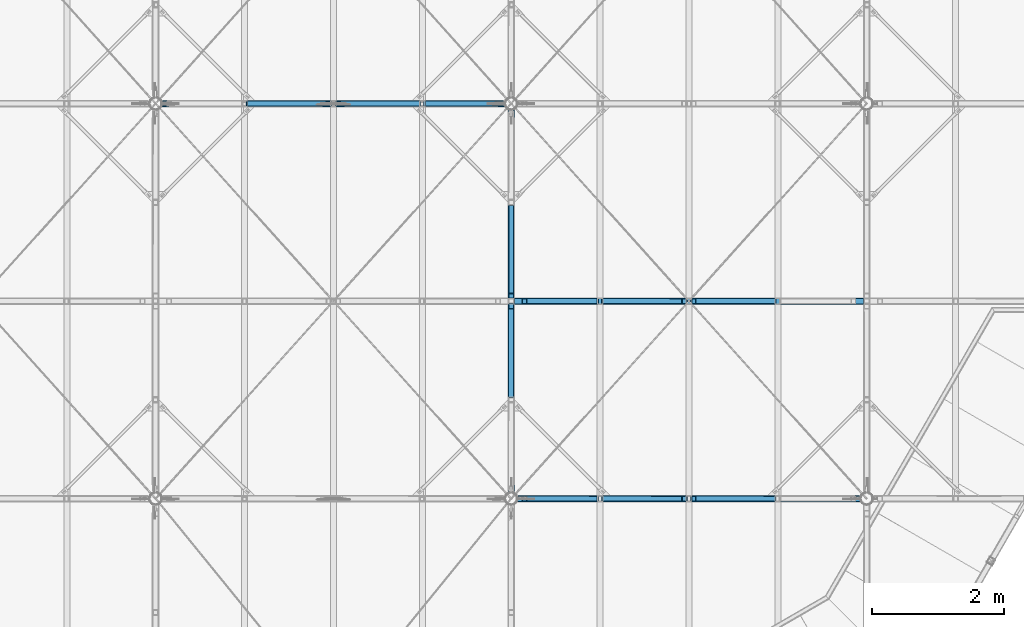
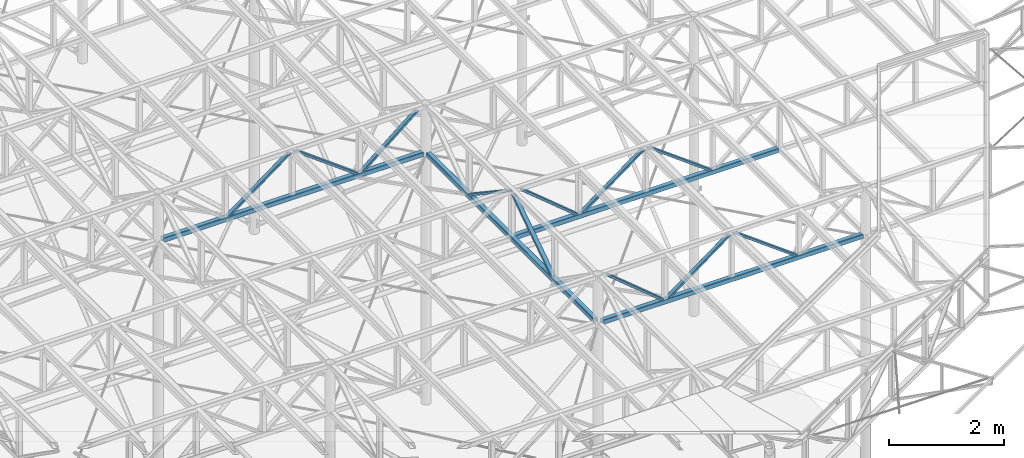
# One storey, part 48 of 132: 15 discrete accessories, 4 elements without a shape of their own.
"""IFC2X3 building model written with IfcOpenShell, lengths in millimetres."""

from ifc_helpers import new_model, si_unit, frame, origin_with_axes, origin_2d_with_axis, place, context, subcontext, project, spatial, hollow_rectangle, circle, extrude, boolean, halfspace, material, type_object, element, aggregate, save


model = new_model("IFC2X3")

# Units and contexts
model_context = context("Model", 3, precision=1e-05, world=origin_with_axes())
body_context = subcontext(model_context, "Body", "Model", "MODEL_VIEW")
ifc_project = project(units=[si_unit("LENGTHUNIT", "METRE", prefix="MILLI"), si_unit("AREAUNIT", "SQUARE_METRE"), si_unit("VOLUMEUNIT", "CUBIC_METRE"), si_unit("MASSUNIT", "GRAM", prefix="KILO"), si_unit("TIMEUNIT", "SECOND"), si_unit("PLANEANGLEUNIT", "RADIAN"), si_unit("SOLIDANGLEUNIT", "STERADIAN"), si_unit("THERMODYNAMICTEMPERATUREUNIT", "DEGREE_CELSIUS"), si_unit("LUMINOUSINTENSITYUNIT", "LUMEN")], contexts=[model_context])

# Site, building, storey
site_placement = place(None, origin_with_axes())
site = spatial("IfcSite", under=ifc_project, at=site_placement, Name="Budowa", CompositionType="ELEMENT")
building_placement = place(site_placement, origin_with_axes())
building = spatial("IfcBuilding", under=site, at=building_placement, Name="Undefined", CompositionType="ELEMENT")
storey_placement = place(building_placement, origin_with_axes())
storey = spatial("IfcBuildingStorey", under=building, at=storey_placement, Name="Undefined", CompositionType="ELEMENT", Elevation=0.0)

# Assembly, discrete accessories
assembly_1_placement = place(storey_placement, origin_with_axes())
assembly_1 = element("IfcElementAssembly", 1, at=assembly_1_placement, inside=storey, Name="Steel Assembly", AssemblyPlace="NOTDEFINED", PredefinedType="RIGID_FRAME")
ifc_material = material(Name="STEEL/S235")
discrete_accessory_type = type_object("IfcDiscreteAccessoryType", Name="BEAM")
discrete_accessory_1_placement = place(assembly_1_placement, frame((14965.9999999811, 9000.00000004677, 13830.0), z_axis=(0.0, -1.0, 0.0), x_axis=(0.770567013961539, 0.0, -0.637358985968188)))
solid_1 = boolean("DIFFERENCE", boolean("DIFFERENCE", extrude(hollow_rectangle(XDim=90.0, YDim=90.0, WallThickness=6.0, InnerFilletRadius=6.0, OuterFilletRadius=12.0, at=origin_2d_with_axis()), frame((1537.1065565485, 38.528350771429, -6.22094376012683e-10), z_axis=(-0.637358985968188, 0.770567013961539, 0.0), x_axis=(-0.770567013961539, -0.637358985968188, 0.0)), (0.0, 0.0, 1.0), 900.0), halfspace(frame((1537.1065565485, 38.5283507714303, 999.999999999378), z_axis=(-0.637358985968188, 0.770567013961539, 0.0), x_axis=(-0.770567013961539, -0.637358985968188, 0.0)), True)), halfspace(frame((963.483469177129, 732.038663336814, 999.999999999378), z_axis=(0.637358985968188, -0.770567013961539, 0.0), x_axis=(0.770567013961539, 0.637358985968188, 0.0)), True))
discrete_accessory_1 = element("IfcDiscreteAccessory", 2, at=discrete_accessory_1_placement, type_object=discrete_accessory_type, material=ifc_material, Name="BEAM", ObjectType="RHS90*50*5", context=body_context, shape_type="CSG", body=[
    boolean("DIFFERENCE", boolean("DIFFERENCE", boolean("DIFFERENCE", extrude(hollow_rectangle(XDim=50.0, YDim=90.0, WallThickness=5.0, InnerFilletRadius=7.5, OuterFilletRadius=12.5, at=origin_2d_with_axis()), frame((1533.07734352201, 2.27373675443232e-12, 0.0), z_axis=(-1.0, 0.0, 0.0), x_axis=(0.0, -1.0, 0.0)), (0.0, 0.0, 1.0), 1497.18), solid_1), halfspace(frame((1537.1065565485, 38.5283507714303, 999.999999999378), z_axis=(-0.637358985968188, 0.770567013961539, 0.0), x_axis=(-0.770567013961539, -0.637358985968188, 0.0)), True)), halfspace(frame((31.867949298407, -38.5283506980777, 1000.0), z_axis=(0.637358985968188, -0.770567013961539, 0.0), x_axis=(0.770567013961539, 0.637358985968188, 0.0)), True)),
])
discrete_accessory_2_placement = place(assembly_1_placement, frame((17524.9999999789, 9000.00000004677, 13830.0), z_axis=(0.0, -1.0, 0.0), x_axis=(-0.803557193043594, 0.0, -0.595227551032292)))
solid_2 = boolean("DIFFERENCE", boolean("DIFFERENCE", extrude(hollow_rectangle(XDim=90.0, YDim=90.0, WallThickness=6.0, InnerFilletRadius=6.0, OuterFilletRadius=12.0, at=origin_2d_with_axis()), frame((565.466173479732, 763.379333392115, -6.22094376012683e-10), z_axis=(-0.595227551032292, -0.803557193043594, 0.0), x_axis=(0.803557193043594, -0.595227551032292, 0.0)), (0.0, 0.0, 1.0), 900.0), halfspace(frame((565.46617347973, 763.379333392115, 999.999999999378), z_axis=(-0.595227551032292, -0.803557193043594, 0.0), x_axis=(0.803557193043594, -0.595227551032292, 0.0)), True)), halfspace(frame((29.7613775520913, 40.1778596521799, 1000.0), z_axis=(0.595227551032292, 0.803557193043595, 0.0), x_axis=(-0.803557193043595, 0.595227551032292, 0.0)), True))
solid_3 = boolean("DIFFERENCE", boolean("DIFFERENCE", extrude(hollow_rectangle(XDim=90.0, YDim=90.0, WallThickness=6.0, InnerFilletRadius=6.0, OuterFilletRadius=12.0, at=origin_2d_with_axis()), frame((1650.26838408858, -40.1778605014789, -6.22094376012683e-10), z_axis=(-0.595227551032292, -0.803557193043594, 0.0), x_axis=(0.803557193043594, -0.595227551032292, 0.0)), (0.0, 0.0, 1.0), 900.0), halfspace(frame((1650.2683829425, -40.1778596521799, 1000.0), z_axis=(-0.595227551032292, -0.803557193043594, 0.0), x_axis=(0.803557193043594, -0.595227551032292, 0.0)), True)), halfspace(frame((1114.56358815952, -763.379334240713, 999.999999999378), z_axis=(0.595227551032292, 0.803557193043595, 0.0), x_axis=(-0.803557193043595, 0.595227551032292, 0.0)), True))
discrete_accessory_2 = element("IfcDiscreteAccessory", 3, at=discrete_accessory_2_placement, type_object=discrete_accessory_type, material=ifc_material, Name="BEAM", ObjectType="RHS90*50*5", context=body_context, shape_type="CSG", body=[
    boolean("DIFFERENCE", boolean("DIFFERENCE", boolean("DIFFERENCE", boolean("DIFFERENCE", extrude(hollow_rectangle(XDim=50.0, YDim=90.0, WallThickness=5.0, InnerFilletRadius=7.5, OuterFilletRadius=12.5, at=origin_2d_with_axis()), frame((1632.54994793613, 0.0, 0.0), z_axis=(-1.0, 0.0, 0.0), x_axis=(0.0, -1.0, 0.0)), (0.0, 0.0, 1.0), 1585.07), solid_2), solid_3), halfspace(frame((1650.2683829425, -40.1778596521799, 1000.0), z_axis=(-0.595227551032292, -0.803557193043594, 0.0), x_axis=(0.803557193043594, -0.595227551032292, 0.0)), True)), halfspace(frame((29.7613775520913, 40.1778596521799, 1000.0), z_axis=(0.595227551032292, 0.803557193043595, 0.0), x_axis=(-0.803557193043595, 0.595227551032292, 0.0)), True)),
])
discrete_accessory_3_placement = place(assembly_1_placement, frame((17524.9999999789, 9000.00000004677, 13830.0), z_axis=(0.0, -1.0, 0.0), x_axis=(0.803557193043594, 0.0, -0.595227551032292)))
solid_4 = boolean("DIFFERENCE", boolean("DIFFERENCE", extrude(hollow_rectangle(XDim=90.0, YDim=90.0, WallThickness=6.0, InnerFilletRadius=6.0, OuterFilletRadius=12.0, at=origin_2d_with_axis()), frame((1650.26838408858, 40.1778605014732, -6.22094376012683e-10), z_axis=(-0.595227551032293, 0.803557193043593, 0.0), x_axis=(-0.803557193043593, -0.595227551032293, 0.0)), (0.0, 0.0, 1.0), 900.0), halfspace(frame((1650.2683829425, 40.1778596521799, 1000.0), z_axis=(-0.595227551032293, 0.803557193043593, 0.0), x_axis=(-0.803557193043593, -0.595227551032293, 0.0)), True)), halfspace(frame((1114.56358815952, 763.379334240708, 999.999999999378), z_axis=(0.595227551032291, -0.803557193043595, 0.0), x_axis=(0.803557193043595, 0.595227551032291, 0.0)), True))
solid_5 = boolean("DIFFERENCE", boolean("DIFFERENCE", extrude(hollow_rectangle(XDim=90.0, YDim=90.0, WallThickness=6.0, InnerFilletRadius=6.0, OuterFilletRadius=12.0, at=origin_2d_with_axis()), frame((565.46617347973, -763.379333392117, -6.22094376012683e-10), z_axis=(-0.595227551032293, 0.803557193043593, 0.0), x_axis=(-0.803557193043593, -0.595227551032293, 0.0)), (0.0, 0.0, 1.0), 900.0), halfspace(frame((565.46617347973, -763.37933339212, 999.999999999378), z_axis=(-0.595227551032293, 0.803557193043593, 0.0), x_axis=(-0.803557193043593, -0.595227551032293, 0.0)), True)), halfspace(frame((29.7613775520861, -40.1778596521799, 1000.0), z_axis=(0.595227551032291, -0.803557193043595, 0.0), x_axis=(0.803557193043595, 0.595227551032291, 0.0)), True))
discrete_accessory_3 = element("IfcDiscreteAccessory", 4, at=discrete_accessory_3_placement, type_object=discrete_accessory_type, material=ifc_material, Name="BEAM", ObjectType="RHS90*50*5", context=body_context, shape_type="CSG", body=[
    boolean("DIFFERENCE", boolean("DIFFERENCE", boolean("DIFFERENCE", boolean("DIFFERENCE", extrude(hollow_rectangle(XDim=50.0, YDim=90.0, WallThickness=5.0, InnerFilletRadius=7.5, OuterFilletRadius=12.5, at=origin_2d_with_axis()), frame((1632.54994793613, 0.0, 0.0), z_axis=(-1.0, 0.0, 0.0), x_axis=(0.0, -1.0, 0.0)), (0.0, 0.0, 1.0), 1585.07), solid_4), solid_5), halfspace(frame((1650.2683829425, 40.1778596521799, 1000.0), z_axis=(-0.595227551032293, 0.803557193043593, 0.0), x_axis=(-0.803557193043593, -0.595227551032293, 0.0)), True)), halfspace(frame((29.7613775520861, -40.1778596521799, 1000.0), z_axis=(0.595227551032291, -0.803557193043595, 0.0), x_axis=(0.803557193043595, 0.595227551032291, 0.0)), True)),
])
discrete_accessory_4_placement = place(assembly_1_placement, frame((14874.9999999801, 9000.00000004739, 12830.0), z_axis=(0.0, -1.0, 0.0), x_axis=(1.0, 0.0, 0.0)))
discrete_accessory_4 = element("IfcDiscreteAccessory", 5, at=discrete_accessory_4_placement, type_object=discrete_accessory_type, material=ifc_material, Name="BEAM", ObjectType="SHS100*8", context=body_context, shape_type="SweptSolid", body=[
    extrude(hollow_rectangle(XDim=100.0, YDim=100.0, WallThickness=8.0, InnerFilletRadius=8.0, OuterFilletRadius=16.0, at=origin_2d_with_axis()), frame((5300.0, 0.0, 0.0), z_axis=(-1.0, 0.0, 0.0), x_axis=(0.0, -1.0, 0.0)), (0.0, 0.0, 1.0), 5300.0),
])
aggregate(assembly_1, [discrete_accessory_1, discrete_accessory_2, discrete_accessory_3, discrete_accessory_4])

assembly_2_placement = place(storey_placement, origin_with_axes())
assembly_2 = element("IfcElementAssembly", 6, at=assembly_2_placement, inside=storey, Name="Steel Assembly", AssemblyPlace="NOTDEFINED", PredefinedType="RIGID_FRAME")
discrete_accessory_5_placement = place(assembly_2_placement, frame((14824.9999999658, 10499.8000000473, 12829.9999999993), z_axis=(1.0, 0.0, 0.0), x_axis=(0.0, -0.832050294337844, 0.554700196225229)))
solid_6 = boolean("DIFFERENCE", boolean("DIFFERENCE", extrude(hollow_rectangle(XDim=90.0, YDim=90.0, WallThickness=6.0, InnerFilletRadius=6.0, OuterFilletRadius=12.0, at=origin_2d_with_axis()), frame((27.5685997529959, -41.7134547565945, 2.20825313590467e-09), z_axis=(0.554700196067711, -0.832050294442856, 1.11090858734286e-10), x_axis=(0.832050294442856, 0.554700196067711, 1.66635594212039e-10)), (0.0, 0.0, 1.0), 900.0), halfspace(frame((27.5685997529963, -41.7134547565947, 1000.00000000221), z_axis=(0.554700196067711, -0.832050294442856, 1.11090858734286e-10), x_axis=(0.832050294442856, 0.554700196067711, 1.66635594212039e-10)), True)), halfspace(frame((526.798776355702, -790.558719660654, 1000.00000000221), z_axis=(-0.554700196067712, 0.832050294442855, -1.1109021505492e-10), x_axis=(-0.832050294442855, -0.554700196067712, -1.66634890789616e-10)), True))
solid_7 = boolean("DIFFERENCE", boolean("DIFFERENCE", extrude(hollow_rectangle(XDim=90.0, YDim=90.0, WallThickness=6.0, InnerFilletRadius=6.0, OuterFilletRadius=12.0, at=origin_2d_with_axis()), frame((1275.64404125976, 790.336839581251, 2.20825313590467e-09), z_axis=(0.554700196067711, -0.832050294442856, 1.11090858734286e-10), x_axis=(0.832050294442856, 0.554700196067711, 1.66635594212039e-10)), (0.0, 0.0, 1.0), 900.0), halfspace(frame((1275.64404125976, 790.33683958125, 1000.00000000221), z_axis=(0.554700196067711, -0.832050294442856, 1.11090858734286e-10), x_axis=(0.832050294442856, 0.554700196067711, 1.66635594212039e-10)), True)), halfspace(frame((1774.87421786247, 41.4915746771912, 1000.00000000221), z_axis=(-0.554700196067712, 0.832050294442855, -1.1109021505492e-10), x_axis=(-0.832050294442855, -0.554700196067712, -1.66634890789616e-10)), True))
discrete_accessory_5 = element("IfcDiscreteAccessory", 7, at=discrete_accessory_5_placement, type_object=discrete_accessory_type, material=ifc_material, Name="BEAM", ObjectType="RHS90*50*5", context=body_context, shape_type="CSG", body=[
    boolean("DIFFERENCE", boolean("DIFFERENCE", boolean("DIFFERENCE", boolean("DIFFERENCE", extrude(hollow_rectangle(XDim=50.0, YDim=90.0, WallThickness=5.0, InnerFilletRadius=7.5, OuterFilletRadius=12.5, at=origin_2d_with_axis()), frame((1763.05910368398, 0.0, 0.0), z_axis=(-1.0, 0.0, 0.0), x_axis=(0.0, -1.0, 0.0)), (0.0, 0.0, 1.0), 1723.34), solid_6), solid_7), halfspace(frame((1775.04062824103, 41.6025147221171, 999.999999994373), z_axis=(-0.554700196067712, 0.832050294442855, -1.1109021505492e-10), x_axis=(-0.832050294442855, -0.554700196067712, -1.66634890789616e-10)), True)), halfspace(frame((27.7350096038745, -41.6025147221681, 1000.00000000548), z_axis=(0.554700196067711, -0.832050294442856, 1.11090858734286e-10), x_axis=(0.832050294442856, 0.554700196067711, 1.66635594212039e-10)), True)),
])
discrete_accessory_6_placement = place(assembly_2_placement, frame((14824.9999999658, 7500.00000004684, 12829.9999999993), z_axis=(1.0, 0.0, 0.0), x_axis=(0.0, 0.832050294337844, 0.554700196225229)))
solid_8 = boolean("DIFFERENCE", boolean("DIFFERENCE", extrude(hollow_rectangle(XDim=90.0, YDim=90.0, WallThickness=6.0, InnerFilletRadius=6.0, OuterFilletRadius=12.0, at=origin_2d_with_axis()), frame((1275.81045145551, -790.447779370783, -2.51850795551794e-07), z_axis=(0.554700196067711, 0.832050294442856, -1.11090858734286e-10), x_axis=(-0.832050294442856, 0.554700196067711, 1.66634595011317e-10)), (0.0, 0.0, 1.0), 900.0), halfspace(frame((1275.81045165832, -790.447779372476, 999.999999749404), z_axis=(0.554700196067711, 0.832050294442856, -1.11090858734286e-10), x_axis=(-0.832050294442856, 0.554700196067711, 1.66634595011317e-10)), True)), halfspace(frame((1775.04062811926, -41.6025143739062, 999.999999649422), z_axis=(-0.554700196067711, -0.832050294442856, 1.11091980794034e-10), x_axis=(0.832050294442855, -0.554700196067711, -1.66634436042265e-10)), True))
solid_9 = boolean("DIFFERENCE", boolean("DIFFERENCE", extrude(hollow_rectangle(XDim=90.0, YDim=90.0, WallThickness=6.0, InnerFilletRadius=6.0, OuterFilletRadius=12.0, at=origin_2d_with_axis()), frame((27.7350097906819, 41.6025147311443, -4.89933715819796e-09), z_axis=(0.554700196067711, 0.832050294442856, -1.11090858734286e-10), x_axis=(-0.832050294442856, 0.554700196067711, 1.66634595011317e-10)), (0.0, 0.0, 1.0), 900.0), halfspace(frame((27.7350099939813, 41.6025147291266, 999.999999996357), z_axis=(0.554700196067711, 0.832050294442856, -1.11090858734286e-10), x_axis=(-0.832050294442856, 0.554700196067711, 1.66634595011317e-10)), True)), halfspace(frame((526.965186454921, 790.447779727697, 999.999999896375), z_axis=(-0.554700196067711, -0.832050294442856, 1.11091980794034e-10), x_axis=(0.832050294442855, -0.554700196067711, -1.66634436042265e-10)), True))
discrete_accessory_6 = element("IfcDiscreteAccessory", 8, at=discrete_accessory_6_placement, type_object=discrete_accessory_type, material=ifc_material, Name="BEAM", ObjectType="RHS90*50*5", context=body_context, shape_type="CSG", body=[
    boolean("DIFFERENCE", boolean("DIFFERENCE", boolean("DIFFERENCE", boolean("DIFFERENCE", extrude(hollow_rectangle(XDim=50.0, YDim=90.0, WallThickness=5.0, InnerFilletRadius=7.5, OuterFilletRadius=12.5, at=origin_2d_with_axis()), frame((1763.05910368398, 0.0, 0.0), z_axis=(-1.0, 0.0, 0.0), x_axis=(0.0, -1.0, 0.0)), (0.0, 0.0, 1.0), 1723.34), solid_8), solid_9), halfspace(frame((1775.04062811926, -41.6025143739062, 999.999999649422), z_axis=(-0.554700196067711, -0.832050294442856, 1.11091980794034e-10), x_axis=(0.832050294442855, -0.554700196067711, -1.66634436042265e-10)), True)), halfspace(frame((27.7350099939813, 41.6025147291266, 999.999999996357), z_axis=(0.554700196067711, 0.832050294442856, -1.11090858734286e-10), x_axis=(-0.832050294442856, 0.554700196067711, 1.66634595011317e-10)), True)),
])
discrete_accessory_7_placement = place(assembly_2_placement, frame((14824.999999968, 6088.90000004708, 12830.0), z_axis=(1.0, 0.0, 0.0), x_axis=(0.0, 1.0, 0.0)))
discrete_accessory_7 = element("IfcDiscreteAccessory", 9, at=discrete_accessory_7_placement, type_object=discrete_accessory_type, material=ifc_material, Name="BEAM", ObjectType="SHS100*8", context=body_context, shape_type="CSG", body=[
    boolean("DIFFERENCE", boolean("DIFFERENCE", boolean("DIFFERENCE", boolean("DIFFERENCE", extrude(hollow_rectangle(XDim=100.0, YDim=100.0, WallThickness=8.0, InnerFilletRadius=8.0, OuterFilletRadius=16.0, at=origin_2d_with_axis()), frame((5911.09999999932, 0.0, 0.0), z_axis=(-1.0, 0.0, 0.0), x_axis=(0.0, -1.0, 0.0)), (0.0, 0.0, 1.0), 6000.0), extrude(circle(Radius=89.9, at=origin_2d_with_axis()), frame((5911.09999999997, 1950.0, 0.0), z_axis=(0.0, -1.0, 0.0), x_axis=(-1.0, 0.0, 0.0)), (0.0, 0.0, 1.0), 2100.0)), extrude(circle(Radius=89.9, at=origin_2d_with_axis()), frame((-88.9000000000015, 1950.0, -5.45696821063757e-12), z_axis=(0.0, -1.0, 0.0), x_axis=(-1.0, 0.0, 0.0)), (0.0, 0.0, 1.0), 2100.0)), halfspace(frame((5911.09999999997, -5339.0, 0.0), z_axis=(-1.0, 0.0, 0.0), x_axis=(0.0, 0.0, -1.0)), True)), halfspace(frame((-88.9000000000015, -5339.0, -5.45696821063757e-12), z_axis=(-1.0, 0.0, 0.0), x_axis=(0.0, 0.0, -1.0)), False)),
])
aggregate(assembly_2, [discrete_accessory_5, discrete_accessory_6, discrete_accessory_7])

assembly_3_placement = place(storey_placement, origin_with_axes())
assembly_3 = element("IfcElementAssembly", 10, at=assembly_3_placement, inside=storey, Name="Steel Assembly", AssemblyPlace="NOTDEFINED", PredefinedType="RIGID_FRAME")
discrete_accessory_8_placement = place(assembly_3_placement, frame((14965.9999999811, 6000.00000004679, 13830.0), z_axis=(0.0, -1.0, 0.0), x_axis=(0.770567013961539, 0.0, -0.637358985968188)))
solid_10 = boolean("DIFFERENCE", boolean("DIFFERENCE", extrude(hollow_rectangle(XDim=90.0, YDim=90.0, WallThickness=6.0, InnerFilletRadius=6.0, OuterFilletRadius=12.0, at=origin_2d_with_axis()), frame((1537.1065565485, 38.528350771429, -6.22094376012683e-10), z_axis=(-0.637358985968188, 0.770567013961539, 0.0), x_axis=(-0.770567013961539, -0.637358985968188, 0.0)), (0.0, 0.0, 1.0), 900.0), halfspace(frame((1537.1065565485, 38.5283507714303, 999.999999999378), z_axis=(-0.637358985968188, 0.770567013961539, 0.0), x_axis=(-0.770567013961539, -0.637358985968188, 0.0)), True)), halfspace(frame((963.483469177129, 732.038663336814, 999.999999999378), z_axis=(0.637358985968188, -0.770567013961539, 0.0), x_axis=(0.770567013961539, 0.637358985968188, 0.0)), True))
discrete_accessory_8 = element("IfcDiscreteAccessory", 11, at=discrete_accessory_8_placement, type_object=discrete_accessory_type, material=ifc_material, Name="BEAM", ObjectType="RHS90*50*5", context=body_context, shape_type="CSG", body=[
    boolean("DIFFERENCE", boolean("DIFFERENCE", boolean("DIFFERENCE", extrude(hollow_rectangle(XDim=50.0, YDim=90.0, WallThickness=5.0, InnerFilletRadius=7.5, OuterFilletRadius=12.5, at=origin_2d_with_axis()), frame((1533.07734352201, 2.27373675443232e-12, 0.0), z_axis=(-1.0, 0.0, 0.0), x_axis=(0.0, -1.0, 0.0)), (0.0, 0.0, 1.0), 1497.18), solid_10), halfspace(frame((1537.1065565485, 38.5283507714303, 999.999999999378), z_axis=(-0.637358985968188, 0.770567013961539, 0.0), x_axis=(-0.770567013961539, -0.637358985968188, 0.0)), True)), halfspace(frame((31.867949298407, -38.5283506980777, 1000.0), z_axis=(0.637358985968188, -0.770567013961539, 0.0), x_axis=(0.770567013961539, 0.637358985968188, 0.0)), True)),
])
discrete_accessory_9_placement = place(assembly_3_placement, frame((17524.9999999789, 6000.00000004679, 13830.0), z_axis=(0.0, -1.0, 0.0), x_axis=(-0.803557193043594, 0.0, -0.595227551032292)))
solid_11 = boolean("DIFFERENCE", boolean("DIFFERENCE", extrude(hollow_rectangle(XDim=90.0, YDim=90.0, WallThickness=6.0, InnerFilletRadius=6.0, OuterFilletRadius=12.0, at=origin_2d_with_axis()), frame((565.466173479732, 763.379333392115, -6.22094376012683e-10), z_axis=(-0.595227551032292, -0.803557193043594, 0.0), x_axis=(0.803557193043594, -0.595227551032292, 0.0)), (0.0, 0.0, 1.0), 900.0), halfspace(frame((565.46617347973, 763.379333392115, 999.999999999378), z_axis=(-0.595227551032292, -0.803557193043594, 0.0), x_axis=(0.803557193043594, -0.595227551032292, 0.0)), True)), halfspace(frame((29.7613775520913, 40.1778596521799, 1000.0), z_axis=(0.595227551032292, 0.803557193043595, 0.0), x_axis=(-0.803557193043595, 0.595227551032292, 0.0)), True))
solid_12 = boolean("DIFFERENCE", boolean("DIFFERENCE", extrude(hollow_rectangle(XDim=90.0, YDim=90.0, WallThickness=6.0, InnerFilletRadius=6.0, OuterFilletRadius=12.0, at=origin_2d_with_axis()), frame((1650.26838408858, -40.1778605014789, -6.22094376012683e-10), z_axis=(-0.595227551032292, -0.803557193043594, 0.0), x_axis=(0.803557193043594, -0.595227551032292, 0.0)), (0.0, 0.0, 1.0), 900.0), halfspace(frame((1650.2683829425, -40.1778596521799, 1000.0), z_axis=(-0.595227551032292, -0.803557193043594, 0.0), x_axis=(0.803557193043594, -0.595227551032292, 0.0)), True)), halfspace(frame((1114.56358815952, -763.379334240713, 999.999999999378), z_axis=(0.595227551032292, 0.803557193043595, 0.0), x_axis=(-0.803557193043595, 0.595227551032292, 0.0)), True))
discrete_accessory_9 = element("IfcDiscreteAccessory", 12, at=discrete_accessory_9_placement, type_object=discrete_accessory_type, material=ifc_material, Name="BEAM", ObjectType="RHS90*50*5", context=body_context, shape_type="CSG", body=[
    boolean("DIFFERENCE", boolean("DIFFERENCE", boolean("DIFFERENCE", boolean("DIFFERENCE", extrude(hollow_rectangle(XDim=50.0, YDim=90.0, WallThickness=5.0, InnerFilletRadius=7.5, OuterFilletRadius=12.5, at=origin_2d_with_axis()), frame((1632.54994793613, 0.0, 0.0), z_axis=(-1.0, 0.0, 0.0), x_axis=(0.0, -1.0, 0.0)), (0.0, 0.0, 1.0), 1585.07), solid_11), solid_12), halfspace(frame((1650.2683829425, -40.1778596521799, 1000.0), z_axis=(-0.595227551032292, -0.803557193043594, 0.0), x_axis=(0.803557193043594, -0.595227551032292, 0.0)), True)), halfspace(frame((29.7613775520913, 40.1778596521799, 1000.0), z_axis=(0.595227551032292, 0.803557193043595, 0.0), x_axis=(-0.803557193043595, 0.595227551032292, 0.0)), True)),
])
discrete_accessory_10_placement = place(assembly_3_placement, frame((17524.9999999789, 6000.00000004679, 13830.0), z_axis=(0.0, -1.0, 0.0), x_axis=(0.803557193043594, 0.0, -0.595227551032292)))
solid_13 = boolean("DIFFERENCE", boolean("DIFFERENCE", extrude(hollow_rectangle(XDim=90.0, YDim=90.0, WallThickness=6.0, InnerFilletRadius=6.0, OuterFilletRadius=12.0, at=origin_2d_with_axis()), frame((1650.26838408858, 40.1778605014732, -6.22094376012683e-10), z_axis=(-0.595227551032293, 0.803557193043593, 0.0), x_axis=(-0.803557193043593, -0.595227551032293, 0.0)), (0.0, 0.0, 1.0), 900.0), halfspace(frame((1650.2683829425, 40.1778596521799, 1000.0), z_axis=(-0.595227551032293, 0.803557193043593, 0.0), x_axis=(-0.803557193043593, -0.595227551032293, 0.0)), True)), halfspace(frame((1114.56358815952, 763.379334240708, 999.999999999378), z_axis=(0.595227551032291, -0.803557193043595, 0.0), x_axis=(0.803557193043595, 0.595227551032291, 0.0)), True))
solid_14 = boolean("DIFFERENCE", boolean("DIFFERENCE", extrude(hollow_rectangle(XDim=90.0, YDim=90.0, WallThickness=6.0, InnerFilletRadius=6.0, OuterFilletRadius=12.0, at=origin_2d_with_axis()), frame((565.46617347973, -763.379333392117, -6.22094376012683e-10), z_axis=(-0.595227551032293, 0.803557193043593, 0.0), x_axis=(-0.803557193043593, -0.595227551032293, 0.0)), (0.0, 0.0, 1.0), 900.0), halfspace(frame((565.46617347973, -763.37933339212, 999.999999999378), z_axis=(-0.595227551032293, 0.803557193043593, 0.0), x_axis=(-0.803557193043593, -0.595227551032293, 0.0)), True)), halfspace(frame((29.7613775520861, -40.1778596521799, 1000.0), z_axis=(0.595227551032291, -0.803557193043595, 0.0), x_axis=(0.803557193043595, 0.595227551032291, 0.0)), True))
discrete_accessory_10 = element("IfcDiscreteAccessory", 13, at=discrete_accessory_10_placement, type_object=discrete_accessory_type, material=ifc_material, Name="BEAM", ObjectType="RHS90*50*5", context=body_context, shape_type="CSG", body=[
    boolean("DIFFERENCE", boolean("DIFFERENCE", boolean("DIFFERENCE", boolean("DIFFERENCE", extrude(hollow_rectangle(XDim=50.0, YDim=90.0, WallThickness=5.0, InnerFilletRadius=7.5, OuterFilletRadius=12.5, at=origin_2d_with_axis()), frame((1632.54994793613, 0.0, 0.0), z_axis=(-1.0, 0.0, 0.0), x_axis=(0.0, -1.0, 0.0)), (0.0, 0.0, 1.0), 1585.07), solid_13), solid_14), halfspace(frame((1650.2683829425, 40.1778596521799, 1000.0), z_axis=(-0.595227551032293, 0.803557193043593, 0.0), x_axis=(-0.803557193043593, -0.595227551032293, 0.0)), True)), halfspace(frame((29.7613775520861, -40.1778596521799, 1000.0), z_axis=(0.595227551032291, -0.803557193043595, 0.0), x_axis=(0.803557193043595, 0.595227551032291, 0.0)), True)),
])
discrete_accessory_11_placement = place(assembly_3_placement, frame((14913.9999999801, 6000.00000004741, 12830.0), z_axis=(0.0, -1.0, 0.0), x_axis=(1.0, 0.0, 0.0)))
discrete_accessory_11 = element("IfcDiscreteAccessory", 14, at=discrete_accessory_11_placement, type_object=discrete_accessory_type, material=ifc_material, Name="BEAM", ObjectType="SHS100*8", context=body_context, shape_type="CSG", body=[
    boolean("DIFFERENCE", boolean("DIFFERENCE", boolean("DIFFERENCE", boolean("DIFFERENCE", extrude(hollow_rectangle(XDim=100.0, YDim=100.0, WallThickness=8.0, InnerFilletRadius=8.0, OuterFilletRadius=16.0, at=origin_2d_with_axis()), frame((5311.00000001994, 0.0, 0.0), z_axis=(-1.0, 0.0, 0.0), x_axis=(0.0, -1.0, 0.0)), (0.0, 0.0, 1.0), 5400.0), extrude(circle(Radius=89.9, at=origin_2d_with_axis()), frame((5311.00000001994, 1950.0, 7.27595761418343e-12), z_axis=(0.0, -1.0, 0.0), x_axis=(0.0, 0.0, 1.0)), (0.0, 0.0, 1.0), 2100.0)), extrude(circle(Radius=89.9, at=origin_2d_with_axis()), frame((-89.0000000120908, 1950.0, 1.09139364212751e-11), z_axis=(0.0, -1.0, 0.0), x_axis=(0.0, 0.0, 1.0)), (0.0, 0.0, 1.0), 2100.0)), halfspace(frame((5311.00000001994, -5339.0, 7.27595761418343e-12), z_axis=(-1.0, 0.0, 0.0), x_axis=(0.0, 0.0, -1.0)), True)), halfspace(frame((-89.0000000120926, -5339.0, 1.09139364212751e-11), z_axis=(-1.0, 0.0, 0.0), x_axis=(0.0, 0.0, -1.0)), False)),
])
aggregate(assembly_3, [discrete_accessory_8, discrete_accessory_9, discrete_accessory_10, discrete_accessory_11])

assembly_4_placement = place(storey_placement, origin_with_axes())
assembly_4 = element("IfcElementAssembly", 15, at=assembly_4_placement, inside=storey, Name="Steel Assembly", AssemblyPlace="NOTDEFINED", PredefinedType="RIGID_FRAME")
discrete_accessory_12_placement = place(assembly_4_placement, frame((14683.9999999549, 12000.0000000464, 13830.0), z_axis=(0.0, -1.0, 0.0), x_axis=(-0.770567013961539, 0.0, -0.637358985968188)))
solid_15 = boolean("DIFFERENCE", boolean("DIFFERENCE", extrude(hollow_rectangle(XDim=90.0, YDim=90.0, WallThickness=6.0, InnerFilletRadius=6.0, OuterFilletRadius=12.0, at=origin_2d_with_axis()), frame((1537.1065565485, -38.5283507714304, -6.22094376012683e-10), z_axis=(-0.637358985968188, -0.770567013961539, 0.0), x_axis=(0.770567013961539, -0.637358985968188, 0.0)), (0.0, 0.0, 1.0), 900.0), halfspace(frame((1537.1065565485, -38.5283507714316, 999.999999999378), z_axis=(-0.637358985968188, -0.770567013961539, 0.0), x_axis=(0.770567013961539, -0.637358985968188, 0.0)), True)), halfspace(frame((963.483469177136, -732.038663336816, 999.999999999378), z_axis=(0.637358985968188, 0.770567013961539, 0.0), x_axis=(-0.770567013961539, 0.637358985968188, 0.0)), True))
discrete_accessory_12 = element("IfcDiscreteAccessory", 16, at=discrete_accessory_12_placement, type_object=discrete_accessory_type, material=ifc_material, Name="BEAM", ObjectType="RHS90*50*5", context=body_context, shape_type="CSG", body=[
    boolean("DIFFERENCE", boolean("DIFFERENCE", boolean("DIFFERENCE", extrude(hollow_rectangle(XDim=50.0, YDim=90.0, WallThickness=5.0, InnerFilletRadius=7.5, OuterFilletRadius=12.5, at=origin_2d_with_axis()), frame((1533.07734352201, 2.27373675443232e-12, 0.0), z_axis=(-1.0, 0.0, 0.0), x_axis=(0.0, -1.0, 0.0)), (0.0, 0.0, 1.0), 1497.18), solid_15), halfspace(frame((1537.1065565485, -38.5283507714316, 999.999999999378), z_axis=(-0.637358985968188, -0.770567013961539, 0.0), x_axis=(0.770567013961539, -0.637358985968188, 0.0)), True)), halfspace(frame((31.867949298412, 38.52835069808, 1000.0), z_axis=(0.637358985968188, 0.770567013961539, 0.0), x_axis=(-0.770567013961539, 0.637358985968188, 0.0)), True)),
])
discrete_accessory_13_placement = place(assembly_4_placement, frame((12124.9999999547, 12000.0000000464, 13830.0), z_axis=(0.0, -1.0, 0.0), x_axis=(-0.803557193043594, 0.0, -0.595227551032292)))
solid_16 = boolean("DIFFERENCE", boolean("DIFFERENCE", extrude(hollow_rectangle(XDim=90.0, YDim=90.0, WallThickness=6.0, InnerFilletRadius=6.0, OuterFilletRadius=12.0, at=origin_2d_with_axis()), frame((565.466173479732, 763.379333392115, -6.22094376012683e-10), z_axis=(-0.595227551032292, -0.803557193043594, 0.0), x_axis=(0.803557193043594, -0.595227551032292, 0.0)), (0.0, 0.0, 1.0), 900.0), halfspace(frame((565.46617347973, 763.379333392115, 999.999999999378), z_axis=(-0.595227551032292, -0.803557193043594, 0.0), x_axis=(0.803557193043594, -0.595227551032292, 0.0)), True)), halfspace(frame((29.7613775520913, 40.1778596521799, 1000.0), z_axis=(0.595227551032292, 0.803557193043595, 0.0), x_axis=(-0.803557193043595, 0.595227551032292, 0.0)), True))
solid_17 = boolean("DIFFERENCE", boolean("DIFFERENCE", extrude(hollow_rectangle(XDim=90.0, YDim=90.0, WallThickness=6.0, InnerFilletRadius=6.0, OuterFilletRadius=12.0, at=origin_2d_with_axis()), frame((1650.26838408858, -40.1778605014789, -6.22094376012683e-10), z_axis=(-0.595227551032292, -0.803557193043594, 0.0), x_axis=(0.803557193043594, -0.595227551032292, 0.0)), (0.0, 0.0, 1.0), 900.0), halfspace(frame((1650.2683829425, -40.1778596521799, 1000.0), z_axis=(-0.595227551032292, -0.803557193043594, 0.0), x_axis=(0.803557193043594, -0.595227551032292, 0.0)), True)), halfspace(frame((1114.56358815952, -763.379334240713, 999.999999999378), z_axis=(0.595227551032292, 0.803557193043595, 0.0), x_axis=(-0.803557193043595, 0.595227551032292, 0.0)), True))
discrete_accessory_13 = element("IfcDiscreteAccessory", 17, at=discrete_accessory_13_placement, type_object=discrete_accessory_type, material=ifc_material, Name="BEAM", ObjectType="RHS90*50*5", context=body_context, shape_type="CSG", body=[
    boolean("DIFFERENCE", boolean("DIFFERENCE", boolean("DIFFERENCE", boolean("DIFFERENCE", extrude(hollow_rectangle(XDim=50.0, YDim=90.0, WallThickness=5.0, InnerFilletRadius=7.5, OuterFilletRadius=12.5, at=origin_2d_with_axis()), frame((1632.54994793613, 0.0, 0.0), z_axis=(-1.0, 0.0, 0.0), x_axis=(0.0, -1.0, 0.0)), (0.0, 0.0, 1.0), 1585.07), solid_16), solid_17), halfspace(frame((1650.2683829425, -40.1778596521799, 1000.0), z_axis=(-0.595227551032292, -0.803557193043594, 0.0), x_axis=(0.803557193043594, -0.595227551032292, 0.0)), True)), halfspace(frame((29.7613775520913, 40.1778596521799, 1000.0), z_axis=(0.595227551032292, 0.803557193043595, 0.0), x_axis=(-0.803557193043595, 0.595227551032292, 0.0)), True)),
])
discrete_accessory_14_placement = place(assembly_4_placement, frame((12124.9999999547, 12000.0000000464, 13830.0), z_axis=(0.0, -1.0, 0.0), x_axis=(0.803557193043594, 0.0, -0.595227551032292)))
solid_18 = boolean("DIFFERENCE", boolean("DIFFERENCE", extrude(hollow_rectangle(XDim=90.0, YDim=90.0, WallThickness=6.0, InnerFilletRadius=6.0, OuterFilletRadius=12.0, at=origin_2d_with_axis()), frame((1650.26838408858, 40.1778605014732, -6.22094376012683e-10), z_axis=(-0.595227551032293, 0.803557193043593, 0.0), x_axis=(-0.803557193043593, -0.595227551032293, 0.0)), (0.0, 0.0, 1.0), 900.0), halfspace(frame((1650.2683829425, 40.1778596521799, 1000.0), z_axis=(-0.595227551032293, 0.803557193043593, 0.0), x_axis=(-0.803557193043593, -0.595227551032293, 0.0)), True)), halfspace(frame((1114.56358815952, 763.379334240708, 999.999999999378), z_axis=(0.595227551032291, -0.803557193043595, 0.0), x_axis=(0.803557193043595, 0.595227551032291, 0.0)), True))
solid_19 = boolean("DIFFERENCE", boolean("DIFFERENCE", extrude(hollow_rectangle(XDim=90.0, YDim=90.0, WallThickness=6.0, InnerFilletRadius=6.0, OuterFilletRadius=12.0, at=origin_2d_with_axis()), frame((565.46617347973, -763.379333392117, -6.22094376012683e-10), z_axis=(-0.595227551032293, 0.803557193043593, 0.0), x_axis=(-0.803557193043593, -0.595227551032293, 0.0)), (0.0, 0.0, 1.0), 900.0), halfspace(frame((565.46617347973, -763.37933339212, 999.999999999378), z_axis=(-0.595227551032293, 0.803557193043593, 0.0), x_axis=(-0.803557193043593, -0.595227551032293, 0.0)), True)), halfspace(frame((29.7613775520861, -40.1778596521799, 1000.0), z_axis=(0.595227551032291, -0.803557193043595, 0.0), x_axis=(0.803557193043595, 0.595227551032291, 0.0)), True))
discrete_accessory_14 = element("IfcDiscreteAccessory", 18, at=discrete_accessory_14_placement, type_object=discrete_accessory_type, material=ifc_material, Name="BEAM", ObjectType="RHS90*50*5", context=body_context, shape_type="CSG", body=[
    boolean("DIFFERENCE", boolean("DIFFERENCE", boolean("DIFFERENCE", boolean("DIFFERENCE", extrude(hollow_rectangle(XDim=50.0, YDim=90.0, WallThickness=5.0, InnerFilletRadius=7.5, OuterFilletRadius=12.5, at=origin_2d_with_axis()), frame((1632.54994793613, 0.0, 0.0), z_axis=(-1.0, 0.0, 0.0), x_axis=(0.0, -1.0, 0.0)), (0.0, 0.0, 1.0), 1585.07), solid_18), solid_19), halfspace(frame((1650.2683829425, 40.1778596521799, 1000.0), z_axis=(-0.595227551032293, 0.803557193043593, 0.0), x_axis=(-0.803557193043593, -0.595227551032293, 0.0)), True)), halfspace(frame((29.7613775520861, -40.1778596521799, 1000.0), z_axis=(0.595227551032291, -0.803557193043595, 0.0), x_axis=(0.803557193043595, 0.595227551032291, 0.0)), True)),
])
discrete_accessory_15_placement = place(assembly_4_placement, frame((9513.99999995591, 12000.000000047, 12830.0), z_axis=(0.0, -1.0, 0.0), x_axis=(1.0, 0.0, 0.0)))
discrete_accessory_15 = element("IfcDiscreteAccessory", 19, at=discrete_accessory_15_placement, type_object=discrete_accessory_type, material=ifc_material, Name="BEAM", ObjectType="SHS100*8", context=body_context, shape_type="CSG", body=[
    boolean("DIFFERENCE", boolean("DIFFERENCE", boolean("DIFFERENCE", boolean("DIFFERENCE", extrude(hollow_rectangle(XDim=100.0, YDim=100.0, WallThickness=8.0, InnerFilletRadius=8.0, OuterFilletRadius=16.0, at=origin_2d_with_axis()), frame((5311.00000001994, 0.0, 0.0), z_axis=(-1.0, 0.0, 0.0), x_axis=(0.0, -1.0, 0.0)), (0.0, 0.0, 1.0), 5400.0), extrude(circle(Radius=89.9, at=origin_2d_with_axis()), frame((-89.0000000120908, 1950.0, 1.09139364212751e-11), z_axis=(0.0, -1.0, 0.0), x_axis=(0.0, 0.0, 1.0)), (0.0, 0.0, 1.0), 2100.0)), extrude(circle(Radius=89.9, at=origin_2d_with_axis()), frame((5311.00000001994, 1950.0, 7.27595761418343e-12), z_axis=(0.0, -1.0, 0.0), x_axis=(0.0, 0.0, 1.0)), (0.0, 0.0, 1.0), 2100.0)), halfspace(frame((5311.00000001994, -5339.0, 7.27595761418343e-12), z_axis=(-1.0, 0.0, 0.0), x_axis=(0.0, 0.0, -1.0)), True)), halfspace(frame((-89.0000000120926, -5339.0, 1.09139364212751e-11), z_axis=(-1.0, 0.0, 0.0), x_axis=(0.0, 0.0, -1.0)), False)),
])
aggregate(assembly_4, [discrete_accessory_12, discrete_accessory_13, discrete_accessory_14, discrete_accessory_15])

save(model, "model.ifc")
